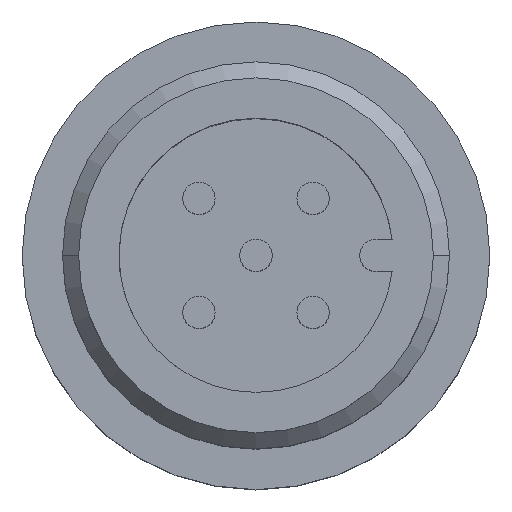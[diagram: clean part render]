
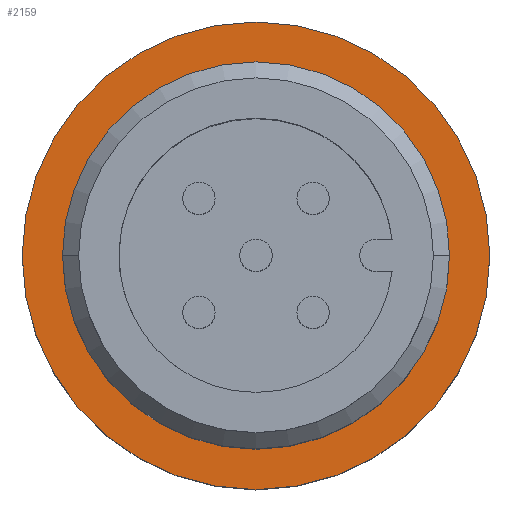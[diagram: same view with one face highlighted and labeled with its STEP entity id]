
A CAD part, top view. The second image highlights one B-rep face of the part: STEP entity #2159.
In plain terms, the highlighted planar face has unit normal (0, 0, 1).
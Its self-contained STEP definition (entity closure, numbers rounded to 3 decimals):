
#593=CARTESIAN_POINT('',(0.,0.,6.));
#594=DIRECTION('',(0.,0.,-1.));
#595=DIRECTION('',(1.,0.,0.));
#596=AXIS2_PLACEMENT_3D('',#593,#594,#595);
#601=CARTESIAN_POINT('',(0.,0.,6.));
#602=DIRECTION('',(0.,0.,-1.));
#603=DIRECTION('',(-1.,0.,0.));
#604=AXIS2_PLACEMENT_3D('',#601,#602,#603);
#609=CARTESIAN_POINT('',(0.,0.,6.));
#610=DIRECTION('',(0.,0.,1.));
#611=DIRECTION('',(1.,0.,0.));
#612=AXIS2_PLACEMENT_3D('',#609,#610,#611);
#617=CARTESIAN_POINT('',(0.,0.,6.));
#618=DIRECTION('',(0.,0.,1.));
#619=DIRECTION('',(-1.,0.,0.));
#620=AXIS2_PLACEMENT_3D('',#617,#618,#619);
#1270=CARTESIAN_POINT('',(-7.25,0.,6.));
#1271=VERTEX_POINT('',#1270);
#1272=CARTESIAN_POINT('',(7.25,0.,6.));
#1273=VERTEX_POINT('',#1272);
#1274=CARTESIAN_POINT('',(6.,0.,6.));
#1275=CARTESIAN_POINT('',(-6.,0.,6.));
#1276=VERTEX_POINT('',#1274);
#1277=VERTEX_POINT('',#1275);
#2144=CARTESIAN_POINT('',(0.,0.,6.));
#2145=DIRECTION('',(0.,0.,-1.));
#2146=DIRECTION('',(1.,0.,0.));
#2147=AXIS2_PLACEMENT_3D('',#2144,#2145,#2146);
#2148=PLANE('',#2147);
#2149=ORIENTED_EDGE('',*,*,#2125,.T.);
#2150=ORIENTED_EDGE('',*,*,#2102,.T.);
#2151=EDGE_LOOP('',(#2149,#2150));
#2152=FACE_OUTER_BOUND('',#2151,.F.);
#2154=ORIENTED_EDGE('',*,*,#2153,.T.);
#2156=ORIENTED_EDGE('',*,*,#2155,.T.);
#2157=EDGE_LOOP('',(#2154,#2156));
#2158=FACE_BOUND('',#2157,.F.);
#2159=ADVANCED_FACE('',(#2152,#2158),#2148,.F.);
#597=CIRCLE('',#596,7.25);
#605=CIRCLE('',#604,7.25);
#613=CIRCLE('',#612,6.);
#621=CIRCLE('',#620,6.);
#2102=EDGE_CURVE('',#1271,#1273,#605,.T.);
#2125=EDGE_CURVE('',#1273,#1271,#597,.T.);
#2153=EDGE_CURVE('',#1276,#1277,#613,.T.);
#2155=EDGE_CURVE('',#1277,#1276,#621,.T.);
